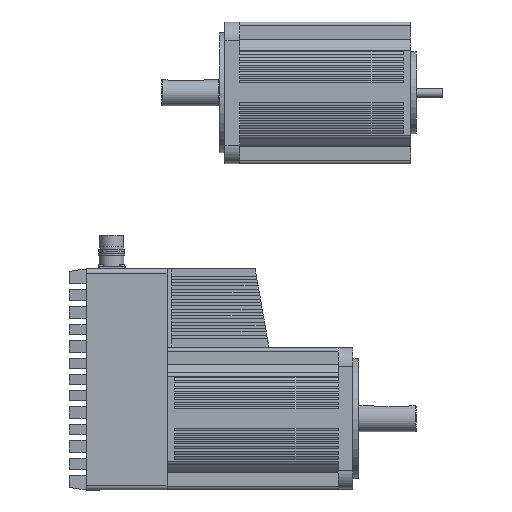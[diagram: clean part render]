
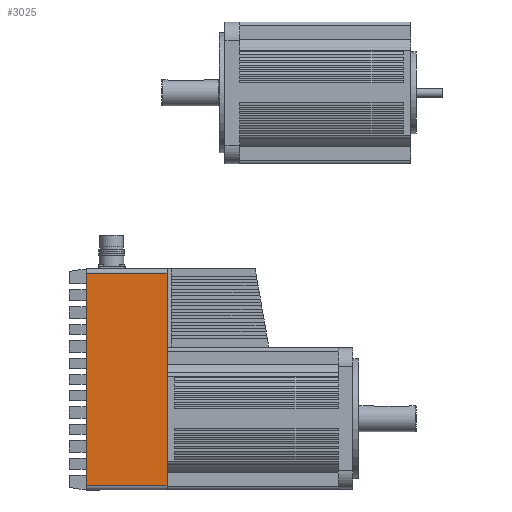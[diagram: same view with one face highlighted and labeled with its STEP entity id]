
A CAD part, left-side view. The second image highlights one B-rep face of the part: STEP entity #3025.
In plain terms, the highlighted planar face has unit normal (-1, 0, 0).
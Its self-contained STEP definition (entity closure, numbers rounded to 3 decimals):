
#3025 = ADVANCED_FACE( '', ( #6488 ), #6489, .T. );
#6488 = FACE_OUTER_BOUND( '', #10454, .T. );
#6489 = PLANE( '', #10455 );
#10454 = EDGE_LOOP( '', ( #18841, #18842, #18843, #18844 ) );
#10455 = AXIS2_PLACEMENT_3D( '', #18845, #18846, #18847 );
#18841 = ORIENTED_EDGE( '', *, *, #24584, .F. );
#18842 = ORIENTED_EDGE( '', *, *, #24632, .T. );
#18843 = ORIENTED_EDGE( '', *, *, #25657, .F. );
#18844 = ORIENTED_EDGE( '', *, *, #22505, .T. );
#18845 = CARTESIAN_POINT( '', ( -84.621, 189.6, 121.111 ) );
#18846 = DIRECTION( '', ( -1., 0., 0. ) );
#18847 = DIRECTION( '', ( 0., 0., 1. ) );
#22505 = EDGE_CURVE( '', #26779, #26783, #26785, .T. );
#24584 = EDGE_CURVE( '', #30174, #26783, #30176, .T. );
#24632 = EDGE_CURVE( '', #30174, #30242, #30245, .F. );
#25657 = EDGE_CURVE( '', #26779, #30242, #31599, .T. );
#26779 = VERTEX_POINT( '', #32983 );
#26783 = VERTEX_POINT( '', #32988 );
#26785 = LINE( '', #32990, #32991 );
#30174 = VERTEX_POINT( '', #37883 );
#30176 = LINE( '', #37885, #37886 );
#30242 = VERTEX_POINT( '', #37982 );
#30245 = LINE( '', #37985, #37986 );
#31599 = LINE( '', #39962, #39963 );
#32983 = CARTESIAN_POINT( '', ( -84.621, 247.7, -77.789 ) );
#32988 = CARTESIAN_POINT( '', ( -84.621, 173.6, -77.789 ) );
#32990 = CARTESIAN_POINT( '', ( -84.621, 173.6, -77.789 ) );
#32991 = VECTOR( '', #41337, 1000. );
#37883 = CARTESIAN_POINT( '', ( -84.621, 173.6, 117.111 ) );
#37885 = CARTESIAN_POINT( '', ( -84.621, 173.6, 121.111 ) );
#37886 = VECTOR( '', #43356, 1000. );
#37982 = CARTESIAN_POINT( '', ( -84.621, 247.7, 117.111 ) );
#37985 = CARTESIAN_POINT( '', ( -84.621, 189.6, 117.111 ) );
#37986 = VECTOR( '', #43399, 1000. );
#39962 = CARTESIAN_POINT( '', ( -84.621, 247.7, 121.011 ) );
#39963 = VECTOR( '', #44250, 1000. );
#41337 = DIRECTION( '', ( 0., -1., 0. ) );
#43356 = DIRECTION( '', ( 0., 0., -1. ) );
#43399 = DIRECTION( '', ( 0., -1., 0. ) );
#44250 = DIRECTION( '', ( 0., 0., 1. ) );
